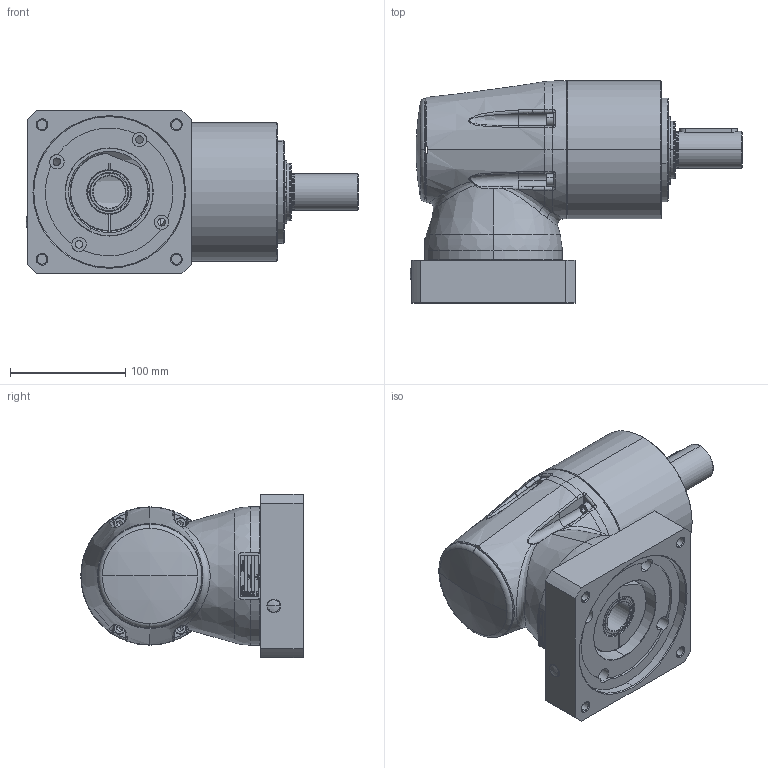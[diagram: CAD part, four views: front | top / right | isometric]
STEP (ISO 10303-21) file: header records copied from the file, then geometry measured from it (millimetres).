
FILE_DESCRIPTION (( 'STEP AP214' ), '1' );
FILE_NAME ('RL-030-0RR-FFF-MMM-S-LL-XXX-BXX-0000.STEP', '2019-10-30T15:06:31', ( '' ), ( '' ), 'SwSTEP 2.0', 'SolidWorks 2019', '' );
FILE_SCHEMA (( 'AUTOMOTIVE_DESIGN' ));
Length unit declared in the file: millimetre
Products named in the file (1): RL-030-0RR-FFF-MMM-S-LL-XXX-BXX-0000
Bounding box: 288.27 x 193 x 142 mm (x, y, z)
Surface area: 213585.8 mm2 (no closed solid volume)
Topology: 0 solids, 62 shells, 431 faces, 2171 edges, 1786 vertices
Faces by surface type: plane 134, cylinder 113, cone 72, bspline 56, torus 52, sphere 4
Entity records: 35021 total; most frequent: CARTESIAN_POINT 14666, ORIENTED_EDGE 2946, DIRECTION 2717, EDGE_CURVE 2163, VERTEX_POINT 1786, LINE 951, VECTOR 951, AXIS2_PLACEMENT_3D 883
